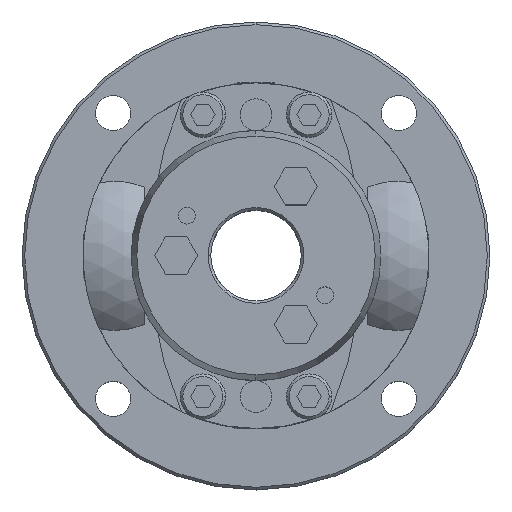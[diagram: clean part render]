
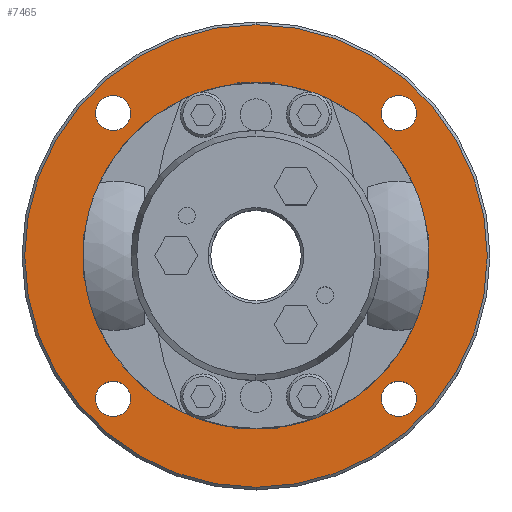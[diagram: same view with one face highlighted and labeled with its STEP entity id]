
A CAD part, top view. The second image highlights one B-rep face of the part: STEP entity #7465.
In plain terms, the highlighted planar face has unit normal (0, 0, 1).
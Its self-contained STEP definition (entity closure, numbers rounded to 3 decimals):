
#1193=CARTESIAN_POINT('',(0.,32.5,-14.0));
#1194=VERTEX_POINT('',#1193);
#1203=CARTESIAN_POINT('',(0.,-32.5,-14.0));
#1204=VERTEX_POINT('',#1203);
#1205=CARTESIAN_POINT('',(0.0,0.0,-14.0));
#1206=DIRECTION('',(0.0,0.0,-1.0));
#1207=DIRECTION('',(0.0,1.0,0.0));
#1208=AXIS2_PLACEMENT_3D('',#1205,#1206,#1207);
#1209=CIRCLE('',#1208,32.5);
#1210=EDGE_CURVE('',#1204,#1194,#1209,.T.);
#1285=CARTESIAN_POINT('',(-26.87,30.17,-14.0));
#1286=VERTEX_POINT('',#1285);
#1295=CARTESIAN_POINT('',(-26.87,23.57,-14.0));
#1296=VERTEX_POINT('',#1295);
#1297=CARTESIAN_POINT('',(-26.87,26.87,-14.0));
#1298=DIRECTION('',(0.0,0.0,-1.0));
#1299=DIRECTION('',(0.0,1.0,0.0));
#1300=AXIS2_PLACEMENT_3D('',#1297,#1298,#1299);
#1301=CIRCLE('',#1300,3.3);
#1302=EDGE_CURVE('',#1296,#1286,#1301,.T.);
#1327=CARTESIAN_POINT('',(-26.87,-23.57,-14.0));
#1328=VERTEX_POINT('',#1327);
#1337=CARTESIAN_POINT('',(-26.87,-30.17,-14.0));
#1338=VERTEX_POINT('',#1337);
#1339=CARTESIAN_POINT('',(-26.87,-26.87,-14.0));
#1340=DIRECTION('',(0.0,0.0,-1.0));
#1341=DIRECTION('',(0.0,1.0,0.0));
#1342=AXIS2_PLACEMENT_3D('',#1339,#1340,#1341);
#1343=CIRCLE('',#1342,3.3);
#1344=EDGE_CURVE('',#1338,#1328,#1343,.T.);
#1369=CARTESIAN_POINT('',(26.87,-23.57,-14.0));
#1370=VERTEX_POINT('',#1369);
#1379=CARTESIAN_POINT('',(26.87,-30.17,-14.0));
#1380=VERTEX_POINT('',#1379);
#1381=CARTESIAN_POINT('',(26.87,-26.87,-14.0));
#1382=DIRECTION('',(0.0,0.0,-1.0));
#1383=DIRECTION('',(0.0,1.0,0.0));
#1384=AXIS2_PLACEMENT_3D('',#1381,#1382,#1383);
#1385=CIRCLE('',#1384,3.3);
#1386=EDGE_CURVE('',#1380,#1370,#1385,.T.);
#1411=CARTESIAN_POINT('',(26.87,30.17,-14.0));
#1412=VERTEX_POINT('',#1411);
#1421=CARTESIAN_POINT('',(26.87,23.57,-14.0));
#1422=VERTEX_POINT('',#1421);
#1423=CARTESIAN_POINT('',(26.87,26.87,-14.0));
#1424=DIRECTION('',(0.0,0.0,-1.0));
#1425=DIRECTION('',(0.0,1.0,0.0));
#1426=AXIS2_PLACEMENT_3D('',#1423,#1424,#1425);
#1427=CIRCLE('',#1426,3.3);
#1428=EDGE_CURVE('',#1422,#1412,#1427,.T.);
#1663=CARTESIAN_POINT('',(0.,-43.5,-14.0));
#1664=VERTEX_POINT('',#1663);
#1673=CARTESIAN_POINT('',(0.,43.5,-14.0));
#1674=VERTEX_POINT('',#1673);
#1675=CARTESIAN_POINT('',(0.0,0.0,-14.0));
#1676=DIRECTION('',(0.0,0.0,-1.0));
#1677=DIRECTION('',(0.0,-1.0,0.0));
#1678=AXIS2_PLACEMENT_3D('',#1675,#1676,#1677);
#1679=CIRCLE('',#1678,43.5);
#1680=EDGE_CURVE('',#1664,#1674,#1679,.T.);
#7396=CARTESIAN_POINT('',(0.0,0.0,-14.0));
#7397=DIRECTION('',(0.0,0.0,-1.0));
#7398=DIRECTION('',(0.0,-1.0,0.0));
#7399=AXIS2_PLACEMENT_3D('',#7396,#7397,#7398);
#7400=CIRCLE('',#7399,43.5);
#7401=EDGE_CURVE('',#1674,#1664,#7400,.T.);
#7406=CARTESIAN_POINT('',(0.,4.,-14.0));
#7407=DIRECTION('',(0.0,0.0,1.0));
#7408=DIRECTION('',(0.0,1.0,0.0));
#7409=AXIS2_PLACEMENT_3D('',#7406,#7407,#7408);
#7410=PLANE('',#7409);
#7411=ORIENTED_EDGE('',*,*,#7401,.F.);
#7412=ORIENTED_EDGE('',*,*,#1680,.F.);
#7413=EDGE_LOOP('',(#7411,#7412));
#7414=FACE_OUTER_BOUND('',#7413,.T.);
#7415=ORIENTED_EDGE('',*,*,#1210,.T.);
#7416=CARTESIAN_POINT('',(0.0,0.0,-14.0));
#7417=DIRECTION('',(0.0,0.0,-1.0));
#7418=DIRECTION('',(0.0,1.0,0.0));
#7419=AXIS2_PLACEMENT_3D('',#7416,#7417,#7418);
#7420=CIRCLE('',#7419,32.5);
#7421=EDGE_CURVE('',#1194,#1204,#7420,.T.);
#7422=ORIENTED_EDGE('',*,*,#7421,.T.);
#7423=EDGE_LOOP('',(#7415,#7422));
#7424=FACE_BOUND('',#7423,.T.);
#7425=ORIENTED_EDGE('',*,*,#1302,.T.);
#7426=CARTESIAN_POINT('',(-26.87,26.87,-14.0));
#7427=DIRECTION('',(0.0,0.0,-1.0));
#7428=DIRECTION('',(0.0,1.0,0.0));
#7429=AXIS2_PLACEMENT_3D('',#7426,#7427,#7428);
#7430=CIRCLE('',#7429,3.3);
#7431=EDGE_CURVE('',#1286,#1296,#7430,.T.);
#7432=ORIENTED_EDGE('',*,*,#7431,.T.);
#7433=EDGE_LOOP('',(#7425,#7432));
#7434=FACE_BOUND('',#7433,.T.);
#7435=ORIENTED_EDGE('',*,*,#1344,.T.);
#7436=CARTESIAN_POINT('',(-26.87,-26.87,-14.0));
#7437=DIRECTION('',(0.0,0.0,-1.0));
#7438=DIRECTION('',(0.0,1.0,0.0));
#7439=AXIS2_PLACEMENT_3D('',#7436,#7437,#7438);
#7440=CIRCLE('',#7439,3.3);
#7441=EDGE_CURVE('',#1328,#1338,#7440,.T.);
#7442=ORIENTED_EDGE('',*,*,#7441,.T.);
#7443=EDGE_LOOP('',(#7435,#7442));
#7444=FACE_BOUND('',#7443,.T.);
#7445=ORIENTED_EDGE('',*,*,#1386,.T.);
#7446=CARTESIAN_POINT('',(26.87,-26.87,-14.0));
#7447=DIRECTION('',(0.0,0.0,-1.0));
#7448=DIRECTION('',(0.0,1.0,0.0));
#7449=AXIS2_PLACEMENT_3D('',#7446,#7447,#7448);
#7450=CIRCLE('',#7449,3.3);
#7451=EDGE_CURVE('',#1370,#1380,#7450,.T.);
#7452=ORIENTED_EDGE('',*,*,#7451,.T.);
#7453=EDGE_LOOP('',(#7445,#7452));
#7454=FACE_BOUND('',#7453,.T.);
#7455=ORIENTED_EDGE('',*,*,#1428,.T.);
#7456=CARTESIAN_POINT('',(26.87,26.87,-14.0));
#7457=DIRECTION('',(0.0,0.0,-1.0));
#7458=DIRECTION('',(0.0,1.0,0.0));
#7459=AXIS2_PLACEMENT_3D('',#7456,#7457,#7458);
#7460=CIRCLE('',#7459,3.3);
#7461=EDGE_CURVE('',#1412,#1422,#7460,.T.);
#7462=ORIENTED_EDGE('',*,*,#7461,.T.);
#7463=EDGE_LOOP('',(#7455,#7462));
#7464=FACE_BOUND('',#7463,.T.);
#7465=ADVANCED_FACE('',(#7414,#7424,#7434,#7444,#7454,#7464),#7410,.T.);
